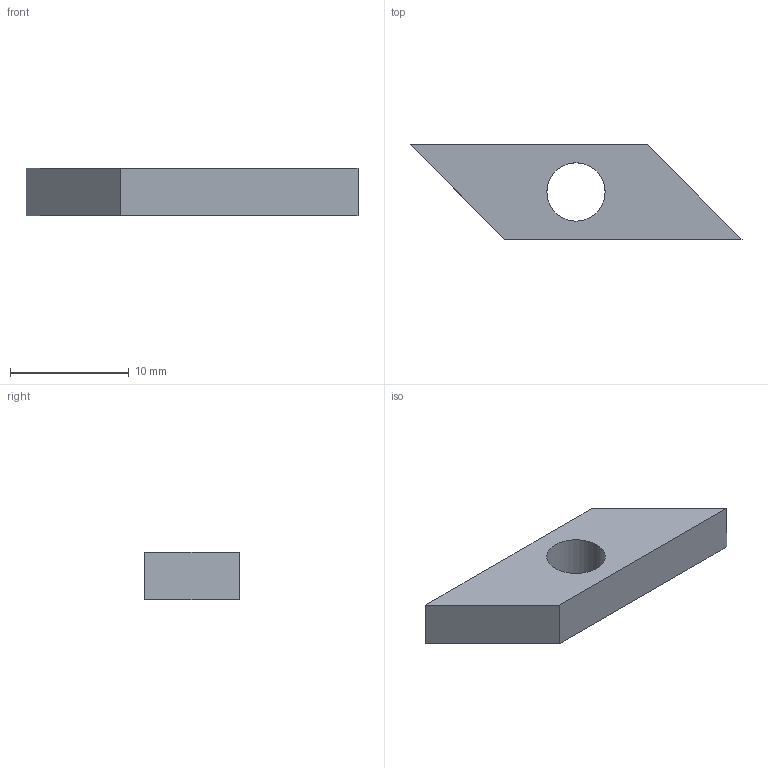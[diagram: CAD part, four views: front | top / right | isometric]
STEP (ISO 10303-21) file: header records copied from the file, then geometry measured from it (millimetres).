
FILE_DESCRIPTION((''),'2;1');
FILE_NAME('E:\catalogue and flyer\Profile catalogue 2015\Accessories JE info\Accessories-JE step file 31MAr16\JE-LN6-8.stp','2016-03-31T16:17:21',('h029'),(''),'Autodesk Inventor 11','Autodesk Inventor 11','');
FILE_SCHEMA(('AUTOMOTIVE_DESIGN { 1 0 10303 214 1 1 1 1 }'));
Length unit declared in the file: millimetre
Products named in the file (1): JE-LN6-8
Bounding box: 28 x 8 x 4 mm (x, y, z)
Volume: 564.1 mm3; surface area: 594.3 mm2
Topology: 1 solids, 1 shells, 7 faces, 16 edges, 11 vertices
Faces by surface type: plane 6, bspline 1
Entity records: 226 total; most frequent: CARTESIAN_POINT 49, DIRECTION 30, ORIENTED_EDGE 28, EDGE_CURVE 14, VECTOR 12, LINE 12, VERTEX_POINT 10, EDGE_LOOP 10
